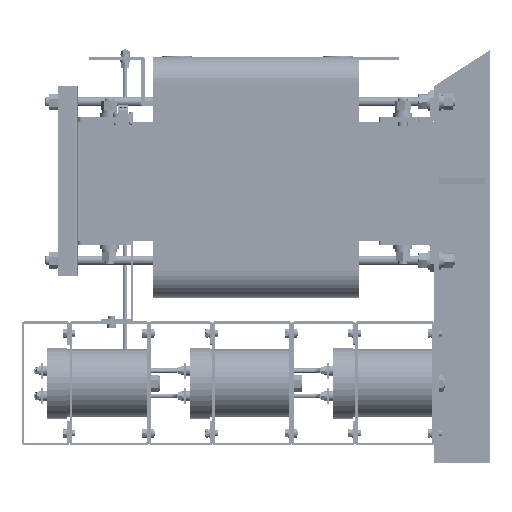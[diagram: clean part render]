
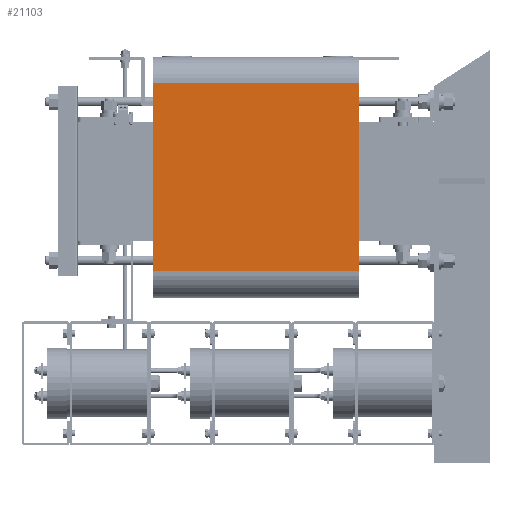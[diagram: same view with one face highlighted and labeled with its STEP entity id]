
A CAD part, left-side view. The second image highlights one B-rep face of the part: STEP entity #21103.
In plain terms, the highlighted planar face has unit normal (-1, 0, 0).
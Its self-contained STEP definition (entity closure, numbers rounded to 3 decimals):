
#21103=ADVANCED_FACE('',(#34012),#34014,.F.);
#34012=FACE_BOUND('',#34013,.T.);
#34013=EDGE_LOOP('',(#47954,#47955,#47956,#47957));
#34014=PLANE('',#34015);
#34015=AXIS2_PLACEMENT_3D('',#34016,#34017,#34018);
#34016=CARTESIAN_POINT('',(-80.5,147.,130.));
#34017=DIRECTION('',(1.,0.,0.));
#34018=DIRECTION('',(0.,1.,0.));
#47954=ORIENTED_EDGE('',*,*,#52465,.T.);
#47955=ORIENTED_EDGE('',*,*,#52479,.T.);
#47956=ORIENTED_EDGE('',*,*,#52447,.F.);
#47957=ORIENTED_EDGE('',*,*,#52480,.T.);
#52447=EDGE_CURVE('',#57931,#57933,#57934,.T.);
#52465=EDGE_CURVE('',#57969,#57967,#57970,.T.);
#52479=EDGE_CURVE('',#57967,#57933,#57992,.T.);
#52480=EDGE_CURVE('',#57931,#57969,#57993,.T.);
#57931=VERTEX_POINT('',#75382);
#57933=VERTEX_POINT('',#75387);
#57934=LINE('',#75388,#75389);
#57967=VERTEX_POINT('',#75463);
#57969=VERTEX_POINT('',#75468);
#57970=LINE('',#75469,#75470);
#57992=LINE('',#75524,#75525);
#57993=LINE('',#75527,#75528);
#75382=CARTESIAN_POINT('',(-80.5,114.,130.));
#75387=CARTESIAN_POINT('',(-80.5,-124.,130.));
#75388=CARTESIAN_POINT('',(-80.5,114.,130.));
#75389=VECTOR('',#75390,1.);
#75390=DIRECTION('',(0.,-1.,0.));
#75463=CARTESIAN_POINT('',(-80.5,-124.,-130.));
#75468=CARTESIAN_POINT('',(-80.5,114.,-130.));
#75469=CARTESIAN_POINT('',(-80.5,114.,-130.));
#75470=VECTOR('',#75471,1.);
#75471=DIRECTION('',(0.,-1.,0.));
#75524=CARTESIAN_POINT('',(-80.5,-124.,-130.));
#75525=VECTOR('',#75526,1.);
#75526=DIRECTION('',(0.,0.,1.));
#75527=CARTESIAN_POINT('',(-80.5,114.,130.));
#75528=VECTOR('',#75529,1.);
#75529=DIRECTION('',(0.,0.,-1.));
